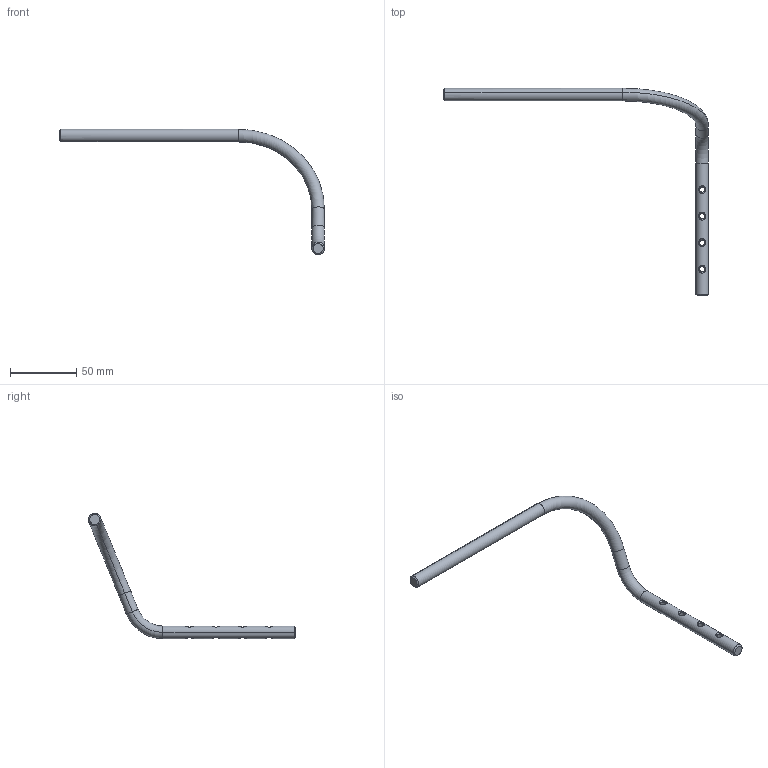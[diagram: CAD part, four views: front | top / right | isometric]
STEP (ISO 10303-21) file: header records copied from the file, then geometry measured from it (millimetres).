
FILE_DESCRIPTION(('CATIA V5 STEP Exchange','CAx-IF Rec.Pracs.--- Model Styling and Organization---1.4--- 2014-01-23','CAx-IF Rec.Pracs.---3D Tessellated Data Validation Properties---0.5---2014-09-14'),'2;1');
FILE_NAME('D:\GrabCAD\I+D\SERIE_LEXA\EKOT-1360-170921A-LEXA_WAIST_SUPPORT\FAB\FAB_C\PDF\MAQUINADO\1360.000.006.000.SOPORTE_MUSLO.stp','2024-10-31T23:45:04+00:00',('none'),('none'),'CATIA Version 5-6 Release 2018 SP6','CATIA V5 STEP AP242','none');
FILE_SCHEMA(('AP242_MANAGED_MODEL_BASED_3D_ENGINEERING_MIM_LF {1 0 10303 442 1 1 4}'));
Length unit declared in the file: millimetre
Products named in the file (1): 1360.000.006.000.SOPORTE_MUSLO
Bounding box: 199.76 x 156.23 x 94.54 mm (x, y, z)
Volume: 25739.5 mm3; surface area: 11782.3 mm2
Topology: 1 solids, 1 shells, 49 faces, 109 edges, 62 vertices
Faces by surface type: cylinder 18, bspline 16, torus 6, plane 5, cone 4
Entity records: 2940 total; most frequent: CARTESIAN_POINT 2002, ORIENTED_EDGE 218, EDGE_CURVE 109, DIRECTION 101, VERTEX_POINT 62, EDGE_LOOP 57, B_SPLINE_CURVE_WITH_KNOTS 56, AXIS2_PLACEMENT_3D 49
